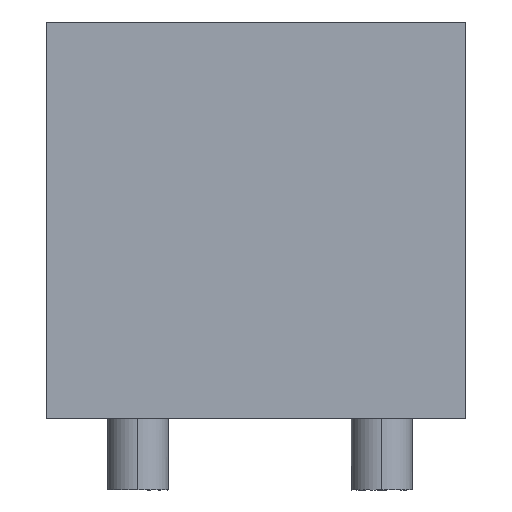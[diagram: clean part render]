
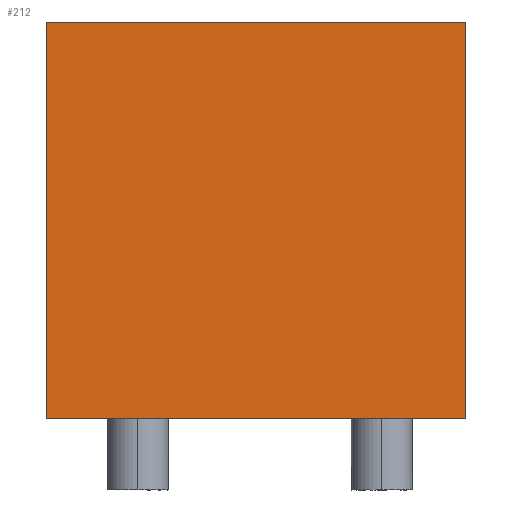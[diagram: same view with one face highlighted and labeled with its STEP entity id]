
A CAD part, left-side view. The second image highlights one B-rep face of the part: STEP entity #212.
In plain terms, the highlighted planar face has unit normal (-1, 0, 0).
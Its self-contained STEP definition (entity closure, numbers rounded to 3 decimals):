
#212=ADVANCED_FACE('EGT_176_RD30_K50_63_HH_ET.1_Hauptk\X2\00F6\X0\rper',(#499),#500,.F.);
#499=FACE_OUTER_BOUND('',#897,.T.);
#500=PLANE('',#898);
#897=EDGE_LOOP('',(#1379,#1380,#1381,#1382));
#898=AXIS2_PLACEMENT_3D('',#1383,#1384,#1385);
#1379=ORIENTED_EDGE('',*,*,#2386,.F.);
#1380=ORIENTED_EDGE('',*,*,#2384,.F.);
#1381=ORIENTED_EDGE('',*,*,#2366,.T.);
#1382=ORIENTED_EDGE('',*,*,#2387,.T.);
#1383=CARTESIAN_POINT('',(-25.0,-27.5,0.0));
#1384=DIRECTION('',(1.0,-0.0,0.0));
#1385=DIRECTION('',(0.0,0.0,-1.0));
#2366=EDGE_CURVE('',#2852,#2856,#2858,.T.);
#2384=EDGE_CURVE('',#2852,#2875,#2886,.T.);
#2386=EDGE_CURVE('',#2875,#2888,#2889,.T.);
#2387=EDGE_CURVE('',#2856,#2888,#2890,.T.);
#2852=VERTEX_POINT('',#3904);
#2856=VERTEX_POINT('',#3910);
#2858=B_SPLINE_CURVE_WITH_KNOTS('',1,(#3913,#3914),.UNSPECIFIED.,.F.,.F.,(2,2),(0.0,1.0),.UNSPECIFIED.);
#2875=VERTEX_POINT('',#4022);
#2886=B_SPLINE_CURVE_WITH_KNOTS('',1,(#4049,#4050),.UNSPECIFIED.,.F.,.F.,(2,2),(0.0,1.0),.UNSPECIFIED.);
#2888=VERTEX_POINT('',#4052);
#2889=B_SPLINE_CURVE_WITH_KNOTS('',1,(#4053,#4054),.UNSPECIFIED.,.F.,.F.,(2,2),(0.,1.0),.UNSPECIFIED.);
#2890=B_SPLINE_CURVE_WITH_KNOTS('',1,(#4055,#4056),.UNSPECIFIED.,.F.,.F.,(2,2),(0.0,1.0),.UNSPECIFIED.);
#3904=CARTESIAN_POINT('',(-25.0,27.5,0.0));
#3910=CARTESIAN_POINT('',(-25.0,-27.5,0.0));
#3913=CARTESIAN_POINT('',(-25.0,27.5,0.0));
#3914=CARTESIAN_POINT('',(-25.0,-27.5,0.0));
#4022=CARTESIAN_POINT('',(-25.0,27.5,52.0));
#4049=CARTESIAN_POINT('',(-25.0,27.5,0.0));
#4050=CARTESIAN_POINT('',(-25.0,27.5,52.0));
#4052=CARTESIAN_POINT('',(-25.0,-27.5,52.0));
#4053=CARTESIAN_POINT('',(-25.0,27.5,52.0));
#4054=CARTESIAN_POINT('',(-25.0,-27.5,52.0));
#4055=CARTESIAN_POINT('',(-25.0,-27.5,0.0));
#4056=CARTESIAN_POINT('',(-25.0,-27.5,52.0));
